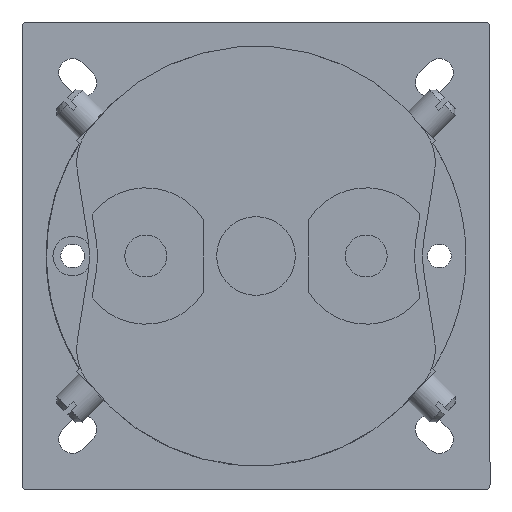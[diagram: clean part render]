
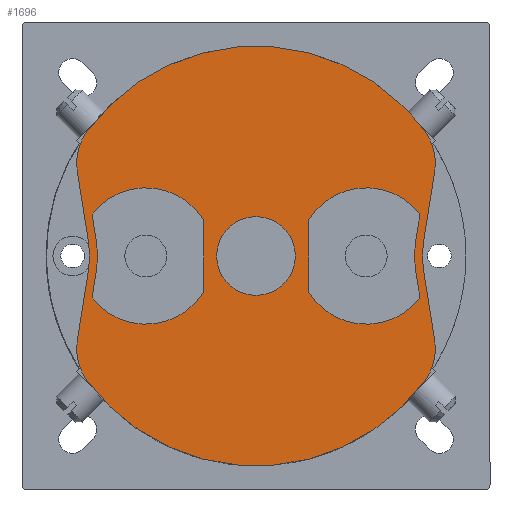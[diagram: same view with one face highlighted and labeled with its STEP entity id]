
A CAD part, front view. The second image highlights one B-rep face of the part: STEP entity #1696.
In plain terms, the highlighted planar face has unit normal (0, -1, 0).
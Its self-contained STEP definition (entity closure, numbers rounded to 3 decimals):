
#913=FACE_BOUND('',#4400,.T.);
#914=FACE_BOUND('',#4401,.T.);
#915=FACE_BOUND('',#4402,.T.);
#916=FACE_BOUND('',#4403,.T.);
#1696=ADVANCED_FACE('',(#913,#914,#915,#916),#2459,.T.);
#2459=PLANE('',#18520);
#4400=EDGE_LOOP('',(#8935,#8936,#8937,#8938,#8939,#8940));
#4401=EDGE_LOOP('',(#8941,#8942,#8943,#8944,#8945,#8946));
#4402=EDGE_LOOP('',(#8947,#8948,#8949,#8950,#8951,#8952,#8953,#8954,#8955,
#8956,#8957,#8958));
#4403=EDGE_LOOP('',(#8959));
#5058=CIRCLE('',#18492,7.5);
#5059=CIRCLE('',#18494,13.);
#5060=CIRCLE('',#18497,21.5);
#5061=CIRCLE('',#18500,13.);
#5062=CIRCLE('',#18503,21.5);
#5063=CIRCLE('',#18506,13.);
#5064=CIRCLE('',#18509,13.);
#5065=CIRCLE('',#18512,10.);
#5066=CIRCLE('',#18513,20.);
#5067=CIRCLE('',#18514,10.);
#5068=CIRCLE('',#18515,40.);
#5069=CIRCLE('',#18516,10.);
#5070=CIRCLE('',#18517,20.);
#5071=CIRCLE('',#18518,10.);
#5072=CIRCLE('',#18519,40.);
#8935=ORIENTED_EDGE('',*,*,#13475,.T.);
#8936=ORIENTED_EDGE('',*,*,#13473,.T.);
#8937=ORIENTED_EDGE('',*,*,#13471,.T.);
#8938=ORIENTED_EDGE('',*,*,#13469,.T.);
#8939=ORIENTED_EDGE('',*,*,#13467,.T.);
#8940=ORIENTED_EDGE('',*,*,#13464,.T.);
#8941=ORIENTED_EDGE('',*,*,#13463,.F.);
#8942=ORIENTED_EDGE('',*,*,#13461,.F.);
#8943=ORIENTED_EDGE('',*,*,#13459,.F.);
#8944=ORIENTED_EDGE('',*,*,#13457,.F.);
#8945=ORIENTED_EDGE('',*,*,#13455,.F.);
#8946=ORIENTED_EDGE('',*,*,#13452,.F.);
#8947=ORIENTED_EDGE('',*,*,#13476,.T.);
#8948=ORIENTED_EDGE('',*,*,#13477,.T.);
#8949=ORIENTED_EDGE('',*,*,#13478,.T.);
#8950=ORIENTED_EDGE('',*,*,#13479,.T.);
#8951=ORIENTED_EDGE('',*,*,#13480,.T.);
#8952=ORIENTED_EDGE('',*,*,#13481,.T.);
#8953=ORIENTED_EDGE('',*,*,#13482,.T.);
#8954=ORIENTED_EDGE('',*,*,#13483,.T.);
#8955=ORIENTED_EDGE('',*,*,#13484,.T.);
#8956=ORIENTED_EDGE('',*,*,#13485,.T.);
#8957=ORIENTED_EDGE('',*,*,#13486,.T.);
#8958=ORIENTED_EDGE('',*,*,#13487,.T.);
#8959=ORIENTED_EDGE('',*,*,#13451,.F.);
#11235=VERTEX_POINT('',#29060);
#11236=VERTEX_POINT('',#29063);
#11237=VERTEX_POINT('',#29064);
#11238=VERTEX_POINT('',#29069);
#11239=VERTEX_POINT('',#29073);
#11240=VERTEX_POINT('',#29077);
#11241=VERTEX_POINT('',#29081);
#11242=VERTEX_POINT('',#29087);
#11243=VERTEX_POINT('',#29088);
#11244=VERTEX_POINT('',#29093);
#11245=VERTEX_POINT('',#29097);
#11246=VERTEX_POINT('',#29101);
#11247=VERTEX_POINT('',#29105);
#11248=VERTEX_POINT('',#29111);
#11249=VERTEX_POINT('',#29112);
#11250=VERTEX_POINT('',#29114);
#11251=VERTEX_POINT('',#29116);
#11252=VERTEX_POINT('',#29118);
#11253=VERTEX_POINT('',#29120);
#11254=VERTEX_POINT('',#29122);
#11255=VERTEX_POINT('',#29124);
#11256=VERTEX_POINT('',#29126);
#11257=VERTEX_POINT('',#29128);
#11258=VERTEX_POINT('',#29130);
#11259=VERTEX_POINT('',#29132);
#13451=EDGE_CURVE('',#11235,#11235,#5058,.T.);
#13452=EDGE_CURVE('',#11236,#11237,#5059,.T.);
#13455=EDGE_CURVE('',#11237,#11238,#15267,.T.);
#13457=EDGE_CURVE('',#11238,#11239,#5060,.T.);
#13459=EDGE_CURVE('',#11239,#11240,#15270,.T.);
#13461=EDGE_CURVE('',#11240,#11241,#5061,.T.);
#13463=EDGE_CURVE('',#11241,#11236,#15273,.T.);
#13464=EDGE_CURVE('',#11242,#11243,#5062,.T.);
#13467=EDGE_CURVE('',#11244,#11242,#15276,.T.);
#13469=EDGE_CURVE('',#11245,#11244,#5063,.T.);
#13471=EDGE_CURVE('',#11246,#11245,#15279,.T.);
#13473=EDGE_CURVE('',#11247,#11246,#5064,.T.);
#13475=EDGE_CURVE('',#11243,#11247,#15282,.T.);
#13476=EDGE_CURVE('',#11248,#11249,#5065,.T.);
#13477=EDGE_CURVE('',#11249,#11250,#15283,.T.);
#13478=EDGE_CURVE('',#11250,#11251,#5066,.T.);
#13479=EDGE_CURVE('',#11251,#11252,#15284,.T.);
#13480=EDGE_CURVE('',#11252,#11253,#5067,.T.);
#13481=EDGE_CURVE('',#11253,#11254,#5068,.T.);
#13482=EDGE_CURVE('',#11254,#11255,#5069,.T.);
#13483=EDGE_CURVE('',#11255,#11256,#15285,.T.);
#13484=EDGE_CURVE('',#11256,#11257,#5070,.T.);
#13485=EDGE_CURVE('',#11257,#11258,#15286,.T.);
#13486=EDGE_CURVE('',#11258,#11259,#5071,.T.);
#13487=EDGE_CURVE('',#11259,#11248,#5072,.T.);
#15267=LINE('',#29068,#16956);
#15270=LINE('',#29076,#16959);
#15273=LINE('',#29084,#16962);
#15276=LINE('',#29092,#16965);
#15279=LINE('',#29100,#16968);
#15282=LINE('',#29108,#16971);
#15283=LINE('',#29113,#16972);
#15284=LINE('',#29117,#16973);
#15285=LINE('',#29125,#16974);
#15286=LINE('',#29129,#16975);
#16956=VECTOR('',#22617,1.);
#16959=VECTOR('',#22626,1.);
#16962=VECTOR('',#22635,1.);
#16965=VECTOR('',#22644,1.);
#16968=VECTOR('',#22653,1.);
#16971=VECTOR('',#22662,1.);
#16972=VECTOR('',#22667,1.);
#16973=VECTOR('',#22670,1.);
#16974=VECTOR('',#22677,1.);
#16975=VECTOR('',#22680,1.);
#18492=AXIS2_PLACEMENT_3D('',#29059,#22607,#22608);
#18494=AXIS2_PLACEMENT_3D('',#29062,#22611,#22612);
#18497=AXIS2_PLACEMENT_3D('',#29072,#22621,#22622);
#18500=AXIS2_PLACEMENT_3D('',#29080,#22630,#22631);
#18503=AXIS2_PLACEMENT_3D('',#29086,#22638,#22639);
#18506=AXIS2_PLACEMENT_3D('',#29096,#22648,#22649);
#18509=AXIS2_PLACEMENT_3D('',#29104,#22657,#22658);
#18512=AXIS2_PLACEMENT_3D('',#29110,#22665,#22666);
#18513=AXIS2_PLACEMENT_3D('',#29115,#22668,#22669);
#18514=AXIS2_PLACEMENT_3D('',#29119,#22671,#22672);
#18515=AXIS2_PLACEMENT_3D('',#29121,#22673,#22674);
#18516=AXIS2_PLACEMENT_3D('',#29123,#22675,#22676);
#18517=AXIS2_PLACEMENT_3D('',#29127,#22678,#22679);
#18518=AXIS2_PLACEMENT_3D('',#29131,#22681,#22682);
#18519=AXIS2_PLACEMENT_3D('',#29133,#22683,#22684);
#18520=AXIS2_PLACEMENT_3D('',#29134,#22685,#22686);
#22607=DIRECTION('',(0.,-1.,0.));
#22608=DIRECTION('',(0.,0.,-1.));
#22611=DIRECTION('',(0.,-1.,0.));
#22612=DIRECTION('',(1.,0.,0.));
#22617=DIRECTION('',(-0.156,0.,0.988));
#22621=DIRECTION('',(0.,1.,0.));
#22622=DIRECTION('',(1.,0.,0.));
#22626=DIRECTION('',(0.156,0.,0.988));
#22630=DIRECTION('',(0.,-1.,0.));
#22631=DIRECTION('',(1.,0.,0.));
#22635=DIRECTION('',(0.,0.,-1.));
#22638=DIRECTION('',(0.,-1.,0.));
#22639=DIRECTION('',(1.,0.,0.));
#22644=DIRECTION('',(0.156,0.,0.988));
#22648=DIRECTION('',(0.,1.,0.));
#22649=DIRECTION('',(1.,0.,0.));
#22653=DIRECTION('',(0.,0.,-1.));
#22657=DIRECTION('',(0.,1.,0.));
#22658=DIRECTION('',(1.,0.,0.));
#22662=DIRECTION('',(-0.156,0.,0.988));
#22665=DIRECTION('',(0.,-1.,0.));
#22666=DIRECTION('',(0.,0.,-1.));
#22667=DIRECTION('',(0.156,0.,-0.988));
#22668=DIRECTION('',(0.,1.,0.));
#22669=DIRECTION('',(0.,0.,-1.));
#22670=DIRECTION('',(-0.156,0.,-0.988));
#22671=DIRECTION('',(0.,-1.,0.));
#22672=DIRECTION('',(0.,0.,-1.));
#22673=DIRECTION('',(0.,-1.,0.));
#22674=DIRECTION('',(0.,0.,-1.));
#22675=DIRECTION('',(0.,-1.,0.));
#22676=DIRECTION('',(0.,0.,-1.));
#22677=DIRECTION('',(-0.156,0.,0.988));
#22678=DIRECTION('',(0.,1.,0.));
#22679=DIRECTION('',(0.,0.,-1.));
#22680=DIRECTION('',(0.156,0.,0.988));
#22681=DIRECTION('',(0.,-1.,0.));
#22682=DIRECTION('',(0.,0.,-1.));
#22683=DIRECTION('',(0.,-1.,0.));
#22684=DIRECTION('',(0.,0.,-1.));
#22685=DIRECTION('',(0.,-1.,0.));
#22686=DIRECTION('',(0.,0.,-1.));
#29059=CARTESIAN_POINT('',(0.,-134.5,0.));
#29060=CARTESIAN_POINT('',(0.,-134.5,-7.5));
#29062=CARTESIAN_POINT('',(21.031,-134.5,0.));
#29063=CARTESIAN_POINT('',(10.031,-134.5,-6.928));
#29064=CARTESIAN_POINT('',(31.253,-134.5,-8.032));
#29068=CARTESIAN_POINT('',(31.253,-134.5,-8.032));
#29069=CARTESIAN_POINT('',(30.514,-134.5,-3.363));
#29072=CARTESIAN_POINT('',(51.749,-134.5,0.));
#29073=CARTESIAN_POINT('',(30.514,-134.5,3.363));
#29076=CARTESIAN_POINT('',(30.514,-134.5,3.363));
#29077=CARTESIAN_POINT('',(31.253,-134.5,8.032));
#29080=CARTESIAN_POINT('',(21.031,-134.5,0.));
#29081=CARTESIAN_POINT('',(10.031,-134.5,6.928));
#29084=CARTESIAN_POINT('',(10.031,-134.5,6.928));
#29086=CARTESIAN_POINT('',(-51.749,-134.5,0.));
#29087=CARTESIAN_POINT('',(-30.514,-134.5,-3.363));
#29088=CARTESIAN_POINT('',(-30.514,-134.5,3.363));
#29092=CARTESIAN_POINT('',(-31.248,-134.5,-7.998));
#29093=CARTESIAN_POINT('',(-31.248,-134.5,-7.998));
#29096=CARTESIAN_POINT('',(-21.,-134.5,0.));
#29097=CARTESIAN_POINT('',(-10.,-134.5,-6.928));
#29100=CARTESIAN_POINT('',(-10.,-134.5,6.928));
#29101=CARTESIAN_POINT('',(-10.,-134.5,6.928));
#29104=CARTESIAN_POINT('',(-21.,-134.5,0.));
#29105=CARTESIAN_POINT('',(-31.248,-134.5,7.998));
#29108=CARTESIAN_POINT('',(-30.514,-134.5,3.363));
#29110=CARTESIAN_POINT('',(-24.186,-134.5,17.749));
#29111=CARTESIAN_POINT('',(-32.249,-134.5,23.665));
#29112=CARTESIAN_POINT('',(-34.063,-134.5,16.184));
#29113=CARTESIAN_POINT('',(-34.063,-134.5,16.184));
#29114=CARTESIAN_POINT('',(-31.996,-134.5,3.129));
#29115=CARTESIAN_POINT('',(-51.749,-134.5,0.));
#29116=CARTESIAN_POINT('',(-31.996,-134.5,-3.129));
#29117=CARTESIAN_POINT('',(-31.996,-134.5,-3.129));
#29118=CARTESIAN_POINT('',(-34.063,-134.5,-16.184));
#29119=CARTESIAN_POINT('',(-24.186,-134.5,-17.749));
#29120=CARTESIAN_POINT('',(-32.249,-134.5,-23.665));
#29121=CARTESIAN_POINT('',(0.,-134.5,0.));
#29122=CARTESIAN_POINT('',(32.249,-134.5,-23.665));
#29123=CARTESIAN_POINT('',(24.186,-134.5,-17.749));
#29124=CARTESIAN_POINT('',(34.063,-134.5,-16.184));
#29125=CARTESIAN_POINT('',(34.063,-134.5,-16.184));
#29126=CARTESIAN_POINT('',(31.996,-134.5,-3.129));
#29127=CARTESIAN_POINT('',(51.749,-134.5,0.));
#29128=CARTESIAN_POINT('',(31.996,-134.5,3.129));
#29129=CARTESIAN_POINT('',(31.996,-134.5,3.129));
#29130=CARTESIAN_POINT('',(34.063,-134.5,16.184));
#29131=CARTESIAN_POINT('',(24.186,-134.5,17.749));
#29132=CARTESIAN_POINT('',(32.249,-134.5,23.665));
#29133=CARTESIAN_POINT('',(0.,-134.5,0.));
#29134=CARTESIAN_POINT('',(-24.186,-134.5,17.749));
